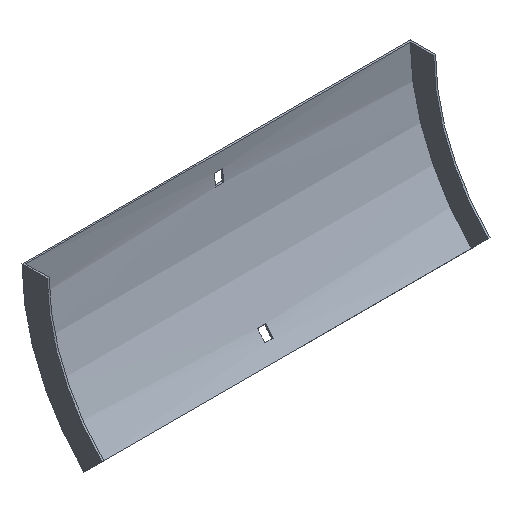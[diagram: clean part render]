
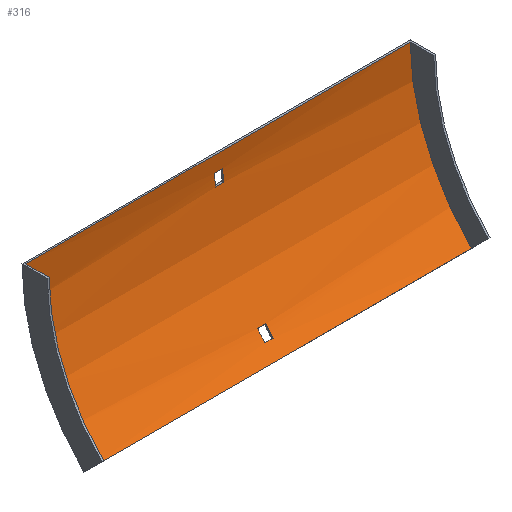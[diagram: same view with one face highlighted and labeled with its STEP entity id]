
A CAD part, isometric view. The second image highlights one B-rep face of the part: STEP entity #316.
In plain terms, the highlighted cylindrical face has radius 165.5 mm (diameter 331 mm), a partial arc.
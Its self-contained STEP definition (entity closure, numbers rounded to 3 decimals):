
#1 = VERTEX_POINT ( 'NONE', #136 ) ;
#6 = EDGE_CURVE ( 'NONE', #304, #199, #525, .T. ) ;
#24 = DIRECTION ( 'NONE',  ( 0., 0., -1. ) ) ;
#29 = LINE ( 'NONE', #248, #81 ) ;
#30 = EDGE_CURVE ( 'NONE', #528, #304, #162, .T. ) ;
#41 = VERTEX_POINT ( 'NONE', #140 ) ;
#43 = CARTESIAN_POINT ( 'NONE',  ( 3.25, -2.838, -21. ) ) ;
#44 = DIRECTION ( 'NONE',  ( 0., 0., -1. ) ) ;
#46 = EDGE_CURVE ( 'NONE', #264, #602, #477, .T. ) ;
#50 = CARTESIAN_POINT ( 'NONE',  ( 152., -49.974, -117.026 ) ) ;
#54 = DIRECTION ( 'NONE',  ( -1., 0., 0. ) ) ;
#55 = AXIS2_PLACEMENT_3D ( 'NONE', #142, #491, #338 ) ;
#58 = VERTEX_POINT ( 'NONE', #349 ) ;
#62 = DIRECTION ( 'NONE',  ( 1., 0., 0. ) ) ;
#70 = VECTOR ( 'NONE', #422, 1000. ) ;
#71 = EDGE_CURVE ( 'NONE', #321, #169, #29, .T. ) ;
#81 = VECTOR ( 'NONE', #533, 1000. ) ;
#86 = DIRECTION ( 'NONE',  ( 1., 0., 0. ) ) ;
#93 = EDGE_CURVE ( 'NONE', #602, #58, #271, .T. ) ;
#96 = ORIENTED_EDGE ( 'NONE', *, *, #599, .T. ) ;
#100 = ORIENTED_EDGE ( 'NONE', *, *, #309, .T. ) ;
#103 = ORIENTED_EDGE ( 'NONE', *, *, #93, .F. ) ;
#114 = CARTESIAN_POINT ( 'NONE',  ( 3.25, -167., 0. ) ) ;
#128 = DIRECTION ( 'NONE',  ( 1., 0., 0. ) ) ;
#131 = FACE_BOUND ( 'NONE', #236, .T. ) ;
#136 = CARTESIAN_POINT ( 'NONE',  ( -3.25, -2.838, -21. ) ) ;
#138 = CIRCLE ( 'NONE', #55, 165.5 ) ;
#140 = CARTESIAN_POINT ( 'NONE',  ( 152., -1.5, 0. ) ) ;
#142 = CARTESIAN_POINT ( 'NONE',  ( -3.25, -167., 0. ) ) ;
#149 = ORIENTED_EDGE ( 'NONE', *, *, #71, .F. ) ;
#159 = CARTESIAN_POINT ( 'NONE',  ( 3.25, -36.071, -101.231 ) ) ;
#160 = DIRECTION ( 'NONE',  ( 1., 0., 0. ) ) ;
#162 = CIRCLE ( 'NONE', #348, 165.5 ) ;
#169 = VERTEX_POINT ( 'NONE', #391 ) ;
#170 = EDGE_CURVE ( 'NONE', #354, #321, #375, .T. ) ;
#176 = VECTOR ( 'NONE', #332, 1000. ) ;
#197 = DIRECTION ( 'NONE',  ( -1., 0., 0. ) ) ;
#199 = VERTEX_POINT ( 'NONE', #578 ) ;
#201 = DIRECTION ( 'NONE',  ( 0., 0., 1. ) ) ;
#211 = AXIS2_PLACEMENT_3D ( 'NONE', #562, #86, #44 ) ;
#230 = AXIS2_PLACEMENT_3D ( 'NONE', #298, #62, #201 ) ;
#234 = CYLINDRICAL_SURFACE ( 'NONE', #472, 165.5 ) ;
#236 = EDGE_LOOP ( 'NONE', ( #252, #96, #100, #591 ) ) ;
#238 = FACE_OUTER_BOUND ( 'NONE', #275, .T. ) ;
#248 = CARTESIAN_POINT ( 'NONE',  ( 153.5, -1.936, -12. ) ) ;
#252 = ORIENTED_EDGE ( 'NONE', *, *, #6, .T. ) ;
#264 = VERTEX_POINT ( 'NONE', #411 ) ;
#271 = CIRCLE ( 'NONE', #230, 165.5 ) ;
#274 = CARTESIAN_POINT ( 'NONE',  ( 3.25, -41.797, -108.233 ) ) ;
#275 = EDGE_LOOP ( 'NONE', ( #103, #475, #415, #582 ) ) ;
#282 = CARTESIAN_POINT ( 'NONE',  ( -152., -49.974, -117.026 ) ) ;
#283 = DIRECTION ( 'NONE',  ( -1., 0., 0. ) ) ;
#289 = ORIENTED_EDGE ( 'NONE', *, *, #369, .F. ) ;
#298 = CARTESIAN_POINT ( 'NONE',  ( -152., -167., 0. ) ) ;
#304 = VERTEX_POINT ( 'NONE', #274 ) ;
#309 = EDGE_CURVE ( 'NONE', #460, #528, #553, .T. ) ;
#316 = ADVANCED_FACE ( 'NONE', ( #480, #238, #131 ), #234, .F. ) ;
#321 = VERTEX_POINT ( 'NONE', #325 ) ;
#325 = CARTESIAN_POINT ( 'NONE',  ( 3.25, -1.936, -12. ) ) ;
#330 = CARTESIAN_POINT ( 'NONE',  ( 152., -1.5, 0. ) ) ;
#332 = DIRECTION ( 'NONE',  ( 1., 0., 0. ) ) ;
#335 = CARTESIAN_POINT ( 'NONE',  ( 152., -167., 0. ) ) ;
#338 = DIRECTION ( 'NONE',  ( 0., 0., 1. ) ) ;
#348 = AXIS2_PLACEMENT_3D ( 'NONE', #558, #607, #517 ) ;
#349 = CARTESIAN_POINT ( 'NONE',  ( -152., -1.5, 0. ) ) ;
#354 = VERTEX_POINT ( 'NONE', #43 ) ;
#360 = AXIS2_PLACEMENT_3D ( 'NONE', #335, #476, #556 ) ;
#365 = EDGE_CURVE ( 'NONE', #264, #41, #594, .T. ) ;
#369 = EDGE_CURVE ( 'NONE', #1, #354, #468, .T. ) ;
#375 = CIRCLE ( 'NONE', #441, 165.5 ) ;
#389 = ORIENTED_EDGE ( 'NONE', *, *, #404, .F. ) ;
#391 = CARTESIAN_POINT ( 'NONE',  ( -3.25, -1.936, -12. ) ) ;
#404 = EDGE_CURVE ( 'NONE', #169, #1, #138, .T. ) ;
#411 = CARTESIAN_POINT ( 'NONE',  ( 152., -49.974, -117.026 ) ) ;
#415 = ORIENTED_EDGE ( 'NONE', *, *, #365, .T. ) ;
#419 = DIRECTION ( 'NONE',  ( 0., 0., 1. ) ) ;
#422 = DIRECTION ( 'NONE',  ( -1., 0., 0. ) ) ;
#426 = CARTESIAN_POINT ( 'NONE',  ( 153.5, -2.838, -21. ) ) ;
#430 = CARTESIAN_POINT ( 'NONE',  ( 153.5, -167., 0. ) ) ;
#434 = LINE ( 'NONE', #330, #70 ) ;
#441 = AXIS2_PLACEMENT_3D ( 'NONE', #114, #160, #24 ) ;
#444 = VECTOR ( 'NONE', #128, 1000. ) ;
#460 = VERTEX_POINT ( 'NONE', #583 ) ;
#463 = VECTOR ( 'NONE', #283, 1000. ) ;
#465 = CARTESIAN_POINT ( 'NONE',  ( 153.5, -36.071, -101.231 ) ) ;
#468 = LINE ( 'NONE', #426, #176 ) ;
#472 = AXIS2_PLACEMENT_3D ( 'NONE', #430, #197, #419 ) ;
#475 = ORIENTED_EDGE ( 'NONE', *, *, #46, .F. ) ;
#476 = DIRECTION ( 'NONE',  ( 1., 0., 0. ) ) ;
#477 = LINE ( 'NONE', #50, #482 ) ;
#480 = FACE_BOUND ( 'NONE', #604, .T. ) ;
#482 = VECTOR ( 'NONE', #54, 1000. ) ;
#491 = DIRECTION ( 'NONE',  ( -1., 0., 0. ) ) ;
#517 = DIRECTION ( 'NONE',  ( 0., 0., 1. ) ) ;
#525 = LINE ( 'NONE', #563, #463 ) ;
#528 = VERTEX_POINT ( 'NONE', #159 ) ;
#533 = DIRECTION ( 'NONE',  ( -1., 0., 0. ) ) ;
#553 = LINE ( 'NONE', #465, #444 ) ;
#556 = DIRECTION ( 'NONE',  ( 0., 0., 1. ) ) ;
#558 = CARTESIAN_POINT ( 'NONE',  ( 3.25, -167., 0. ) ) ;
#562 = CARTESIAN_POINT ( 'NONE',  ( -3.25, -167., 0. ) ) ;
#563 = CARTESIAN_POINT ( 'NONE',  ( 153.5, -41.797, -108.233 ) ) ;
#565 = ORIENTED_EDGE ( 'NONE', *, *, #170, .F. ) ;
#578 = CARTESIAN_POINT ( 'NONE',  ( -3.25, -41.797, -108.233 ) ) ;
#582 = ORIENTED_EDGE ( 'NONE', *, *, #605, .T. ) ;
#583 = CARTESIAN_POINT ( 'NONE',  ( -3.25, -36.071, -101.231 ) ) ;
#591 = ORIENTED_EDGE ( 'NONE', *, *, #30, .T. ) ;
#594 = CIRCLE ( 'NONE', #360, 165.5 ) ;
#598 = CIRCLE ( 'NONE', #211, 165.5 ) ;
#599 = EDGE_CURVE ( 'NONE', #199, #460, #598, .T. ) ;
#602 = VERTEX_POINT ( 'NONE', #282 ) ;
#604 = EDGE_LOOP ( 'NONE', ( #389, #149, #565, #289 ) ) ;
#605 = EDGE_CURVE ( 'NONE', #41, #58, #434, .T. ) ;
#607 = DIRECTION ( 'NONE',  ( -1., 0., 0. ) ) ;
